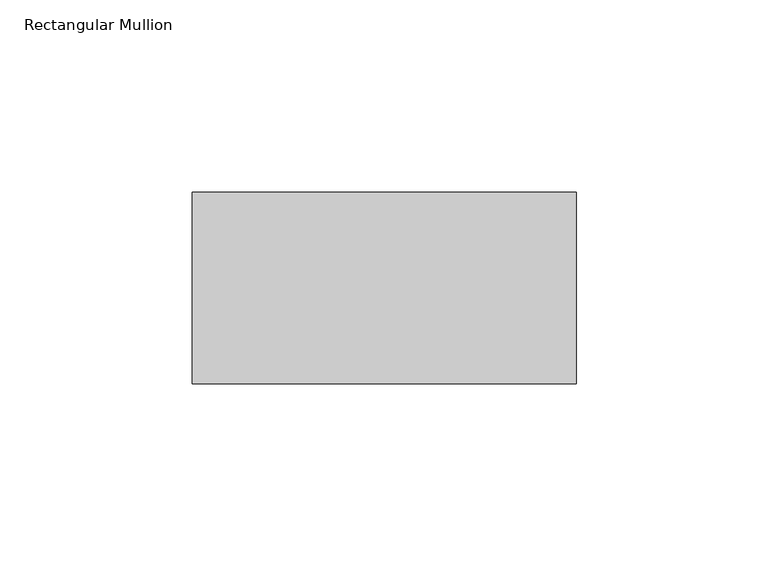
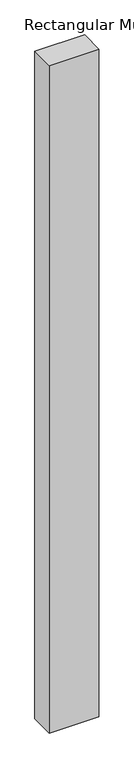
"""IFC4 building model written with IfcOpenShell, lengths in millimetres: member geometry, Rectangular Mullion : Mullion_Curtain Wall_Generic Showcase_50x100mm."""

from ifc_helpers import new_model, si_unit, frame, origin, place, context, project, spatial, polyline, outline, extrude, source, transform, mapped, element, save


def rectangular_mullion_1928c3e6(model_context):
    return source(origin(), model_context, "Body", "SweptSolid", [
        extrude(outline(polyline([(0.0, 0.0), (0.0, -50.0), (-100.0, -50.0), (-100.0, 0.0), (0.0, 0.0)])), frame((0.0, 0.0, -1419.45347), z_axis=(0.0, 0.0, 1.0), x_axis=(1.0, 0.0, 0.0)), (0.0, 0.0, 1.0), 1419.45347),
    ])


if __name__ == "__main__":
    model = new_model("IFC4")
    model_context = context("Model", 3, world=origin())
    ifc_project = project(units=[si_unit("LENGTHUNIT", "METRE", prefix="MILLI")], contexts=[model_context])
    site = spatial("IfcSite", under=ifc_project)
    building = spatial("IfcBuilding", under=site)
    placement = place(None, origin())
    rectangular_mullion_shape = rectangular_mullion_1928c3e6(model_context)
    element("IfcMember", 1, ObjectType="Rectangular Mullion : Mullion_Curtain Wall_Generic Showcase_50x100mm", at=placement, inside=building, context=model_context, shape_type="MappedRepresentation", body=[
        mapped(rectangular_mullion_shape, transform((0.0, 0.0, 0.0), x_axis=(1.0, 0.0, 0.0), y_axis=(0.0, 1.0, 0.0), z_axis=(0.0, 0.0, 1.0))),
    ])
    save(model, "model.ifc")
